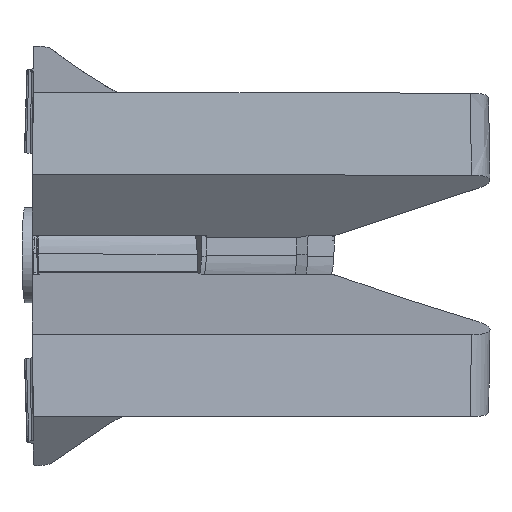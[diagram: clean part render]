
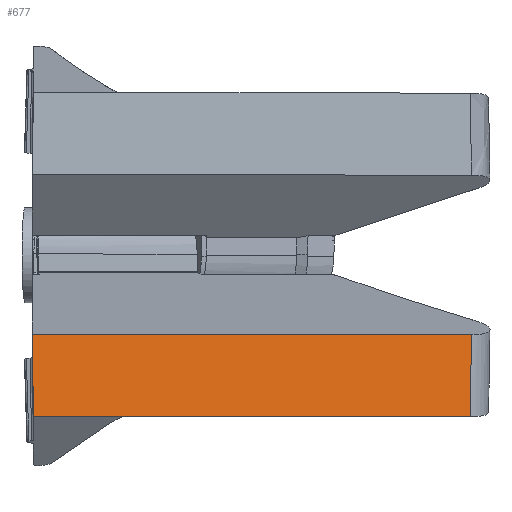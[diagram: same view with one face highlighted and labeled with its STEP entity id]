
A CAD part, top view. The second image highlights one B-rep face of the part: STEP entity #677.
In plain terms, the highlighted planar face has unit normal (0.53, -0.018, 0.848).
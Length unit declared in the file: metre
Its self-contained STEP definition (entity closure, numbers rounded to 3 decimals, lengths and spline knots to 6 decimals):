
#677=ADVANCED_FACE('',(#1455),#1456,.F.);
#1455=FACE_OUTER_BOUND('',#14113,.T.);
#1456=PLANE('',#14114);
#14113=EDGE_LOOP('',(#17741,#17742,#17743,#17744,#17745));
#14114=AXIS2_PLACEMENT_3D('',#17746,#17747,#17748);
#17741=ORIENTED_EDGE('',*,*,#19065,.F.);
#17742=ORIENTED_EDGE('',*,*,#19362,.F.);
#17743=ORIENTED_EDGE('',*,*,#19068,.F.);
#17744=ORIENTED_EDGE('',*,*,#19024,.F.);
#17745=ORIENTED_EDGE('',*,*,#19052,.T.);
#17746=CARTESIAN_POINT('',(0.111829,-0.040069,0.101897));
#17747=DIRECTION('',(-0.53,0.017,-0.848));
#17748=DIRECTION('',(-0.848,0.,0.53));
#19024=EDGE_CURVE('',#20385,#20387,#20388,.T.);
#19052=EDGE_CURVE('',#20385,#20429,#20431,.T.);
#19065=EDGE_CURVE('',#20448,#20429,#20450,.T.);
#19068=EDGE_CURVE('',#20387,#20454,#20455,.F.);
#19362=EDGE_CURVE('',#20454,#20448,#20835,.T.);
#20385=VERTEX_POINT('',#23525);
#20387=VERTEX_POINT('',#23528);
#20388=LINE('',#23529,#23530);
#20429=VERTEX_POINT('',#23642);
#20431=LINE('',#23645,#23646);
#20448=VERTEX_POINT('',#23714);
#20450=ELLIPSE('',#23717,0.000591,0.000491);
#20454=VERTEX_POINT('',#23722);
#20455=LINE('',#23723,#23724);
#20835=LINE('',#24882,#24883);
#23525=CARTESIAN_POINT('',(0.,-0.040069,0.171776));
#23528=CARTESIAN_POINT('',(0.220598,-0.040069,0.033931));
#23529=CARTESIAN_POINT('',(0.111829,-0.040069,0.101897));
#23530=VECTOR('',#25712,1.0);
#23642=CARTESIAN_POINT('',(0.000717,-0.080859,0.170488));
#23645=CARTESIAN_POINT('',(0.000073,-0.044235,0.171644));
#23646=VECTOR('',#25737,1.0);
#23714=CARTESIAN_POINT('',(0.001141,-0.081287,0.170214));
#23717=AXIS2_PLACEMENT_3D('',#25748,#25749,#25750);
#23722=CARTESIAN_POINT('',(0.220217,-0.081287,0.03332));
#23723=CARTESIAN_POINT('',(0.220483,-0.052496,0.033747));
#23724=VECTOR('',#25752,1.0);
#24882=CARTESIAN_POINT('',(0.145548,-0.081287,0.079979));
#24883=VECTOR('',#26030,1.0);
#25712=DIRECTION('',(0.848,0.,-0.53));
#25737=DIRECTION('',(0.018,-0.999,-0.032));
#25748=CARTESIAN_POINT('',(0.001208,-0.080781,0.170183));
#25749=DIRECTION('',(-0.53,0.017,-0.848));
#25750=DIRECTION('',(0.791,0.372,-0.486));
#25752=DIRECTION('',(0.009,1.,0.015));
#26030=DIRECTION('',(-0.848,0.,0.53));
